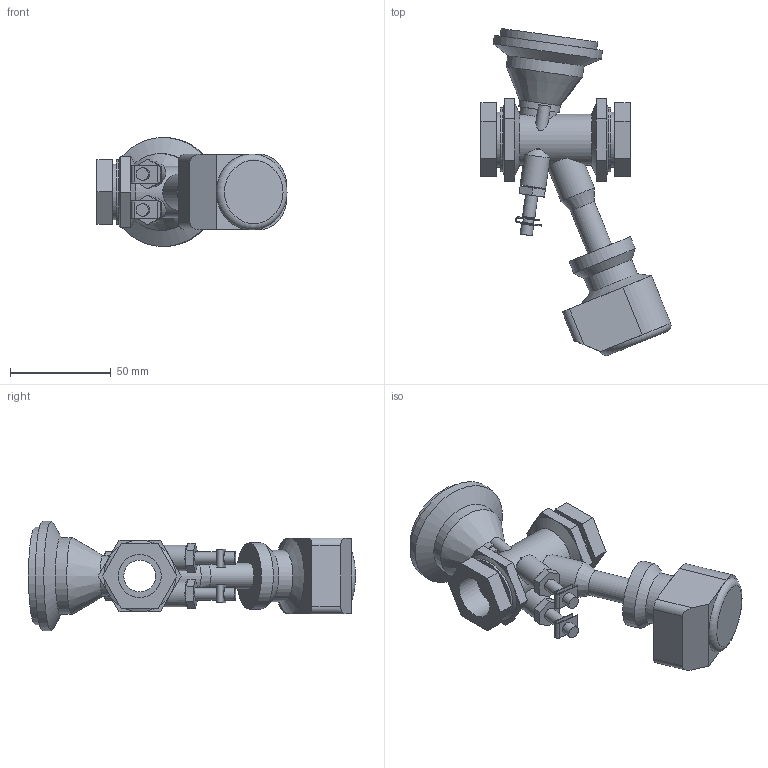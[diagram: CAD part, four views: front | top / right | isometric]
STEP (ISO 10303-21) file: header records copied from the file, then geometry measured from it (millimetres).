
FILE_DESCRIPTION(/* description */ ('VIC BALANCING AND CONTROL VALVE SERIES 7CP (FPT)-EMO 3','CAx-IF Rec.Pracs.---Representation and Presentation of Product Manufacturing Information (PMI)---4.0---2014-10-13'),/* implementation_level */ '2;1');
FILE_NAME(/* name */ 'C:\Users\Vjadhav\AppData\Roaming\Autodesk\ApplicationPlugins\Victaulic.Temp\A633\Victaulic_IPS_Valve Balancing Pressure Independent_TA Series 7CP (FPT)_EMO 3_LF_0.5 (15).stp',/* time_stamp */ '2021-09-14T20:02:29+06:00',/* author */ ('Vjadhav'),/* organization */ ('Victaulic'),/* preprocessor_version */ 'ST-DEVELOPER v17.2',/* originating_system */ 'Autodesk Inventor 2019',/* authorisation */ '');
FILE_SCHEMA (('AP242_MANAGED_MODEL_BASED_3D_ENGINEERING_MIM_LF { 1 0 10303 442 1 1 4 }'));
Length unit declared in the file: inch
Products named in the file (2): 7CP_EMO 3_LF-0.5; 7CP_LF-0.5
Assembly tree (1 placements, depth 2):
  7CP_EMO 3_LF-0.5
    7CP_LF-0.5
Bounding box: 94.19 x 162.05 x 54.1 mm (x, y, z)
Volume: 142617.3 mm3; surface area: 38301.4 mm2
Topology: 1 solids, 1 shells, 179 faces, 447 edges, 296 vertices
Faces by surface type: plane 120, cylinder 47, cone 11, torus 1
Full cylindrical faces by diameter (mm): 5.08 x6, 6.096 x6, 12.649 x1, 12.7 x2, 15.799 x2, 17.78 x1, 20.32 x1, 21.336 x3, 25.4 x2, 27.432 x2, 31.75 x2, 32.766 x1, 37.631 x1, 38.1 x1, 48.26 x1, 54.102 x1
Entity records: 5897 total; most frequent: CARTESIAN_POINT 1148, DIRECTION 982, ORIENTED_EDGE 894, EDGE_CURVE 447, AXIS2_PLACEMENT_3D 368, VERTEX_POINT 296, LINE 246, VECTOR 246
